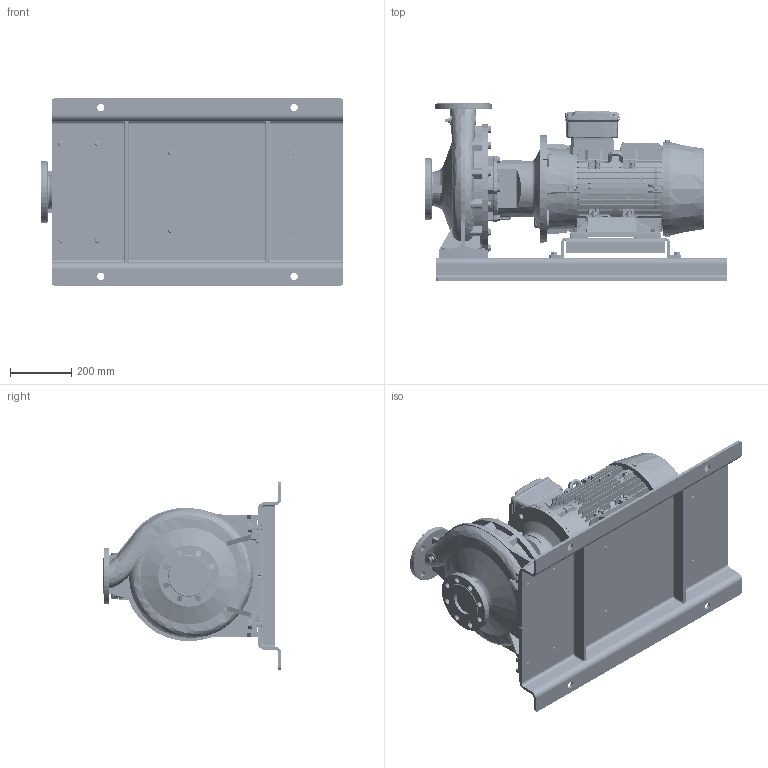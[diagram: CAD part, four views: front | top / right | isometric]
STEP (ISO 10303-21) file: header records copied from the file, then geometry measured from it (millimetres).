
FILE_DESCRIPTION (( 'STEP AP214' ), '1' );
FILE_NAME ('GSD4 65-315_11.0 & 15.0_(160ML)_W21_BP.STEP', '2026-05-26T01:08:29', ( '' ), ( '' ), 'SwSTEP 2.0', 'SolidWorks 2024', '' );
FILE_SCHEMA (( 'AUTOMOTIVE_DESIGN' ));
Length unit declared in the file: millimetre
Products named in the file (13): 65-315-160M_L_ﾃﾞﾌｫﾙﾄ; Parametric bolt_SFT-A297B; Parametric bolt and washer_SFT-A303B; Parametric bolt and washer_SFT-A297B; GSD4 65-315_11.0 & 15.0_(160ML)_W21_BP; Parametric Flat Washer_M12; Parametric bolt_SFT-A353B; CGS11-5253; N7S3 GSDA-732 F1-1832945-00; Parametric bolt and washer_SFT-A353B; Parametric bolt_SFT-A303B; Parametric Flat Washer_M16; 160M_L_ALIE3_W21T_B35
Assembly tree (22 placements, depth 3):
  GSD4 65-315_11.0 & 15.0_(160ML)_W21_BP
    65-315-160M_L_ﾃﾞﾌｫﾙﾄ
    N7S3 GSDA-732 F1-1832945-00
    CGS11-5253
    Parametric bolt and washer_SFT-A297B  x4
      Parametric bolt_SFT-A297B
      Parametric Flat Washer_M12
    Parametric bolt and washer_SFT-A353B  x4
      Parametric bolt_SFT-A353B
      Parametric Flat Washer_M16
    Parametric bolt and washer_SFT-A303B  x4
      Parametric bolt_SFT-A303B
      Parametric Flat Washer_M12
    160M_L_ALIE3_W21T_B35
Bounding box: 985 x 580 x 610 mm (x, y, z)
Volume: 62316527.4 mm3; surface area: 5017470.6 mm2
Topology: 58 solids, 64 shells, 6690 faces, 17284 edges, 11168 vertices
Faces by surface type: plane 3920, cylinder 1403, cone 635, bspline 456, torus 260, sphere 16
Entity records: 248114 total; most frequent: CARTESIAN_POINT 104116, ORIENTED_EDGE 31544, DIRECTION 26801, EDGE_CURVE 15772, VERTEX_POINT 10199, LINE 9893, VECTOR 9893, AXIS2_PLACEMENT_3D 8454
